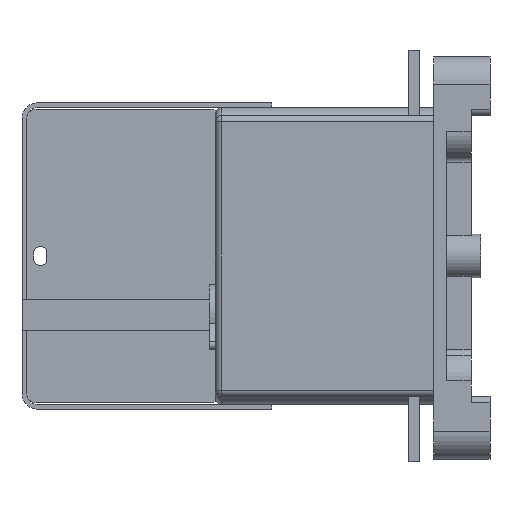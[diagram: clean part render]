
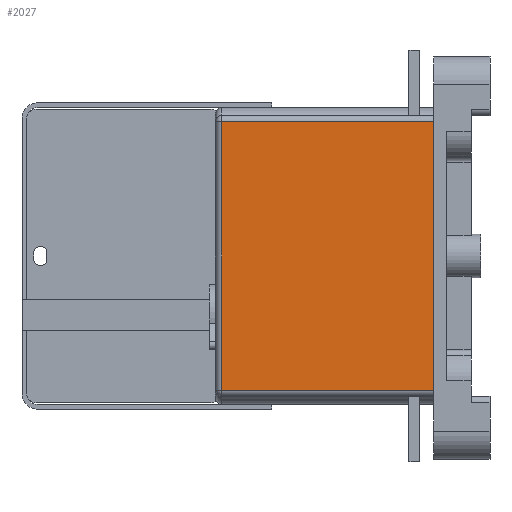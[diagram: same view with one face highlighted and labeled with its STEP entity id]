
A CAD part, left-side view. The second image highlights one B-rep face of the part: STEP entity #2027.
In plain terms, the highlighted planar face has unit normal (-1, 0, 0).
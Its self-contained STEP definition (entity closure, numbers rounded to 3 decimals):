
#2027=ADVANCED_FACE('',(#3320),#2578,.F.);
#2578=PLANE('',#17467);
#3320=FACE_OUTER_BOUND('',#4341,.T.);
#4341=EDGE_LOOP('',(#8688,#8689,#8690,#8691));
#8688=ORIENTED_EDGE('',*,*,#12695,.F.);
#8689=ORIENTED_EDGE('',*,*,#12680,.T.);
#8690=ORIENTED_EDGE('',*,*,#12696,.T.);
#8691=ORIENTED_EDGE('',*,*,#12412,.T.);
#10254=VERTEX_POINT('',#26028);
#10255=VERTEX_POINT('',#26030);
#10422=VERTEX_POINT('',#26588);
#10426=VERTEX_POINT('',#26604);
#12412=EDGE_CURVE('',#10255,#10254,#14221,.T.);
#12680=EDGE_CURVE('',#10422,#10426,#14369,.T.);
#12695=EDGE_CURVE('',#10422,#10254,#14377,.T.);
#12696=EDGE_CURVE('',#10426,#10255,#14378,.T.);
#14221=LINE('',#26029,#15903);
#14369=LINE('',#26605,#16051);
#14377=LINE('',#26644,#16059);
#14378=LINE('',#26646,#16060);
#15903=VECTOR('',#21314,1.);
#16051=VECTOR('',#21910,1.);
#16059=VECTOR('',#21938,1.);
#16060=VECTOR('',#21941,1.);
#17467=AXIS2_PLACEMENT_3D('',#26647,#21942,#21943);
#21314=DIRECTION('',(0.,0.,1.));
#21910=DIRECTION('',(0.,0.,-1.));
#21938=DIRECTION('',(0.,-1.,0.));
#21941=DIRECTION('',(0.,-1.,0.));
#21942=DIRECTION('',(1.,0.,0.));
#21943=DIRECTION('',(0.,0.,-1.));
#26028=CARTESIAN_POINT('',(-41.,0.,43.));
#26029=CARTESIAN_POINT('',(-41.,0.,-43.));
#26030=CARTESIAN_POINT('',(-41.,0.,-43.));
#26588=CARTESIAN_POINT('',(-41.,68.,43.));
#26604=CARTESIAN_POINT('',(-41.,68.,-43.));
#26605=CARTESIAN_POINT('',(-41.,68.,-43.));
#26644=CARTESIAN_POINT('',(-41.,35.,43.));
#26646=CARTESIAN_POINT('',(-41.,35.,-43.));
#26647=CARTESIAN_POINT('',(-41.,35.,-43.));
